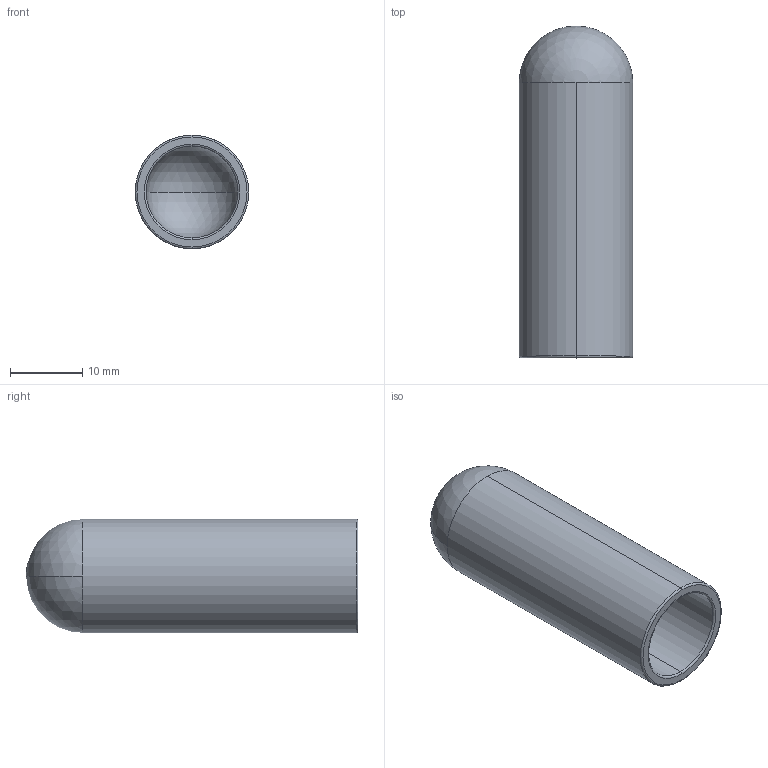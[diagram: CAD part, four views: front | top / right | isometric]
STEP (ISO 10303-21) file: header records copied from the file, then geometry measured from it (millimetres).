
FILE_DESCRIPTION (( 'STEP AP203' ), '1' );
FILE_NAME ('FDP-.5PULTRUD-CAP.step', '2019-09-11T18:18:42', ( 'ydmin' ), ( '' ), 'SwSTEP 2.0', 'SolidWorks 2017', '' );
FILE_SCHEMA (( 'CONFIG_CONTROL_DESIGN' ));
Length unit declared in the file: inch
Products named in the file (1): FDP-.5PULTRUD-CAP
Bounding box: 15.75 x 45.97 x 15.75 mm (x, y, z)
Volume: 3079.6 mm3; surface area: 4106.3 mm2
Topology: 1 solids, 1 shells, 13 faces, 32 edges, 18 vertices
Faces by surface type: torus 4, cylinder 4, sphere 4, plane 1
Entity records: 449 total; most frequent: DIRECTION 80, CARTESIAN_POINT 60, ORIENTED_EDGE 56, AXIS2_PLACEMENT_3D 38, EDGE_CURVE 28, CIRCLE 24, VERTEX_POINT 18, EDGE_LOOP 14
